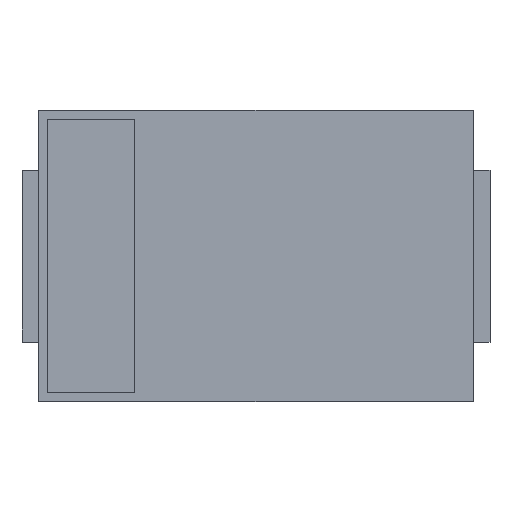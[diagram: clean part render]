
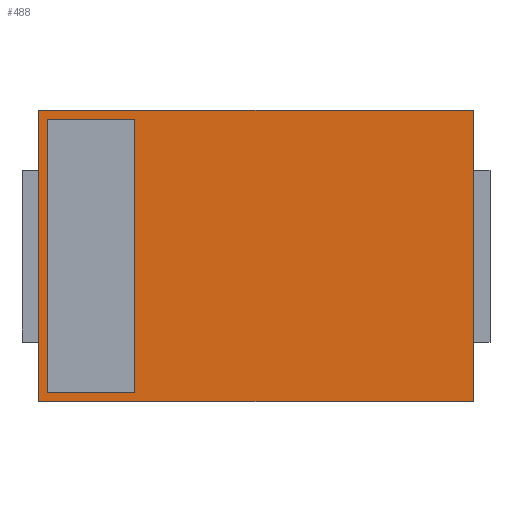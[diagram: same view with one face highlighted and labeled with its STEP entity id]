
A CAD part, top view. The second image highlights one B-rep face of the part: STEP entity #488.
In plain terms, the highlighted planar face has unit normal (0, 0, 1).
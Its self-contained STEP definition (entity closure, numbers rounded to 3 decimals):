
#488=ADVANCED_FACE('',(#494),#489,.T.);
#489=PLANE('',#490);
#490=AXIS2_PLACEMENT_3D('',#491,#492,#493);
#491=CARTESIAN_POINT('',(-2.089,-1.397,2.286));
#492=DIRECTION('',(0.0,0.0,1.0));
#493=DIRECTION('',(0.,1.,0.));
#494=FACE_OUTER_BOUND('',#495,.T.);
#495=EDGE_LOOP('',(#496,#506,#516,#526));
#499=CARTESIAN_POINT('',(2.089,-1.397,2.286));
#498=VERTEX_POINT('',#499);
#501=CARTESIAN_POINT('',(-2.089,-1.397,2.286));
#500=VERTEX_POINT('',#501);
#497=EDGE_CURVE('',#498,#500,#502,.T.);
#502=LINE('',#499,#504);
#504=VECTOR('',#505,4.178);
#505=DIRECTION('',(-1.0,0.0,0.0));
#496=ORIENTED_EDGE('',*,*,#497,.F.);
#509=CARTESIAN_POINT('',(2.089,1.397,2.286));
#508=VERTEX_POINT('',#509);
#507=EDGE_CURVE('',#508,#498,#512,.T.);
#512=LINE('',#509,#514);
#514=VECTOR('',#515,2.794);
#515=DIRECTION('',(0.0,-1.0,0.0));
#506=ORIENTED_EDGE('',*,*,#507,.F.);
#519=CARTESIAN_POINT('',(-2.089,1.397,2.286));
#518=VERTEX_POINT('',#519);
#517=EDGE_CURVE('',#518,#508,#522,.T.);
#522=LINE('',#519,#524);
#524=VECTOR('',#525,4.178);
#525=DIRECTION('',(1.0,0.0,0.0));
#516=ORIENTED_EDGE('',*,*,#517,.F.);
#527=EDGE_CURVE('',#500,#518,#532,.T.);
#532=LINE('',#501,#534);
#534=VECTOR('',#535,2.794);
#535=DIRECTION('',(0.0,1.0,0.0));
#526=ORIENTED_EDGE('',*,*,#527,.F.);
